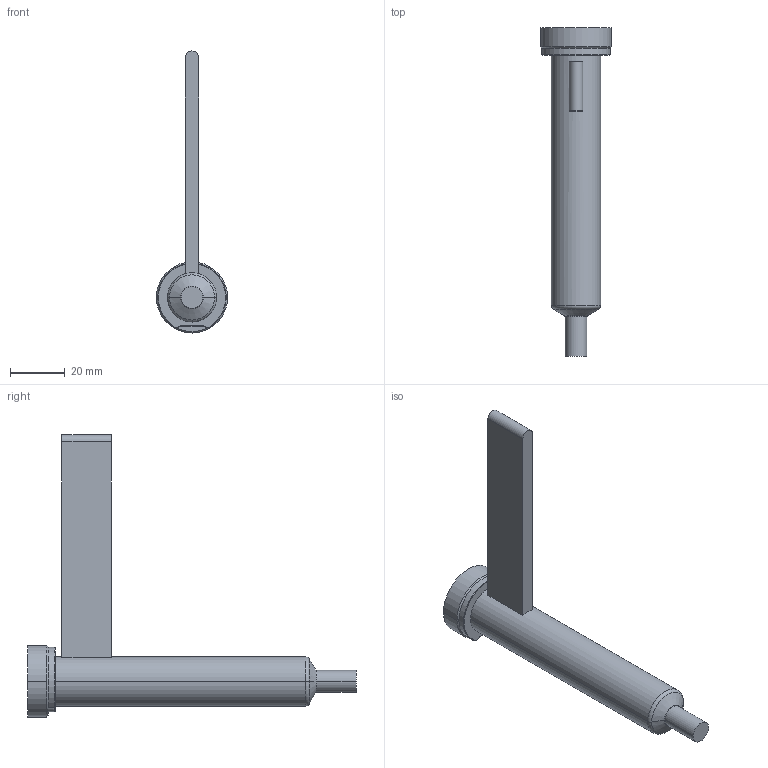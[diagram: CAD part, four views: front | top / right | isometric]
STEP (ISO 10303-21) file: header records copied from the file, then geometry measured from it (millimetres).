
FILE_DESCRIPTION((''),'2;1');
FILE_NAME('EO04_PG-FBE_WR_100_COT','2024-02-19T11:48:11',('sundharh'),(''),'CREO PARAMETRIC BY PTC INC, 2023154','CREO PARAMETRIC BY PTC INC, 2023154','');
FILE_SCHEMA(('CONFIG_CONTROL_DESIGN'));
Length unit declared in the file: millimetre
Products named in the file (1): EO04_PG-FBE_WR_100_COT
Bounding box: 26 x 120 x 103 mm (x, y, z)
Volume: 37063.5 mm3; surface area: 11152.1 mm2
Topology: 1 solids, 1 shells, 31 faces, 67 edges, 40 vertices
Faces by surface type: cylinder 11, plane 9, torus 7, cone 4
Entity records: 961 total; most frequent: CARTESIAN_POINT 228, DIRECTION 159, ORIENTED_EDGE 134, AXIS2_PLACEMENT_3D 67, EDGE_CURVE 67, VERTEX_POINT 40, CIRCLE 36, EDGE_LOOP 33
